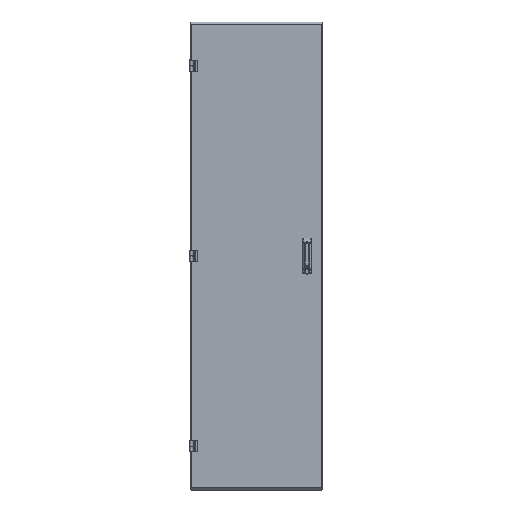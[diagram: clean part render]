
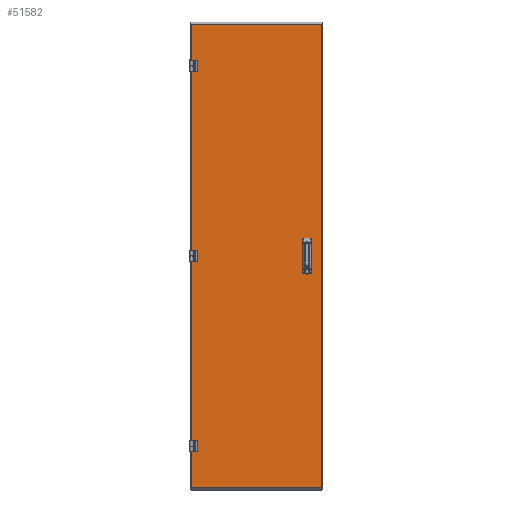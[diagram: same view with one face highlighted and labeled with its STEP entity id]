
A CAD part, front view. The second image highlights one B-rep face of the part: STEP entity #51582.
In plain terms, the highlighted planar face has unit normal (0, -1, 0).
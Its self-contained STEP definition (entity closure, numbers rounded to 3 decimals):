
#2938=CIRCLE('',#54766,5.156);
#2939=CIRCLE('',#54767,5.156);
#2940=CIRCLE('',#54768,5.156);
#2941=CIRCLE('',#54769,5.156);
#2942=CIRCLE('',#54770,5.156);
#2943=CIRCLE('',#54771,5.156);
#4999=ORIENTED_EDGE('',*,*,#20739,.T.);
#5000=ORIENTED_EDGE('',*,*,#20740,.T.);
#5001=ORIENTED_EDGE('',*,*,#20741,.F.);
#5002=ORIENTED_EDGE('',*,*,#20742,.F.);
#5003=ORIENTED_EDGE('',*,*,#20743,.F.);
#5004=ORIENTED_EDGE('',*,*,#20744,.F.);
#5005=ORIENTED_EDGE('',*,*,#20745,.T.);
#5006=ORIENTED_EDGE('',*,*,#20746,.T.);
#5007=ORIENTED_EDGE('',*,*,#20747,.T.);
#5008=ORIENTED_EDGE('',*,*,#20748,.T.);
#5009=ORIENTED_EDGE('',*,*,#20749,.T.);
#5010=ORIENTED_EDGE('',*,*,#20750,.T.);
#5011=ORIENTED_EDGE('',*,*,#20751,.T.);
#5012=ORIENTED_EDGE('',*,*,#20752,.T.);
#20739=EDGE_CURVE('',#28610,#28610,#2938,.T.);
#20740=EDGE_CURVE('',#28611,#28611,#2939,.T.);
#20741=EDGE_CURVE('',#28612,#28613,#33699,.T.);
#20742=EDGE_CURVE('',#28614,#28612,#33700,.T.);
#20743=EDGE_CURVE('',#28615,#28614,#33701,.T.);
#20744=EDGE_CURVE('',#28613,#28615,#33702,.T.);
#20745=EDGE_CURVE('',#28616,#28616,#2940,.F.);
#20746=EDGE_CURVE('',#28617,#28617,#2941,.F.);
#20747=EDGE_CURVE('',#28618,#28618,#2942,.F.);
#20748=EDGE_CURVE('',#28619,#28619,#2943,.F.);
#20749=EDGE_CURVE('',#28620,#28621,#33703,.T.);
#20750=EDGE_CURVE('',#28621,#28622,#33704,.T.);
#20751=EDGE_CURVE('',#28622,#28623,#33705,.T.);
#20752=EDGE_CURVE('',#28623,#28620,#33706,.T.);
#28610=VERTEX_POINT('',#73138);
#28611=VERTEX_POINT('',#73140);
#28612=VERTEX_POINT('',#73142);
#28613=VERTEX_POINT('',#73143);
#28614=VERTEX_POINT('',#73145);
#28615=VERTEX_POINT('',#73147);
#28616=VERTEX_POINT('',#73150);
#28617=VERTEX_POINT('',#73152);
#28618=VERTEX_POINT('',#73154);
#28619=VERTEX_POINT('',#73156);
#28620=VERTEX_POINT('',#73158);
#28621=VERTEX_POINT('',#73159);
#28622=VERTEX_POINT('',#73161);
#28623=VERTEX_POINT('',#73163);
#33699=LINE('',#73141,#38370);
#33700=LINE('',#73144,#38371);
#33701=LINE('',#73146,#38372);
#33702=LINE('',#73148,#38373);
#33703=LINE('',#73157,#38374);
#33704=LINE('',#73160,#38375);
#33705=LINE('',#73162,#38376);
#33706=LINE('',#73164,#38377);
#38370=VECTOR('',#59456,1000.);
#38371=VECTOR('',#59457,1000.);
#38372=VECTOR('',#59458,1000.);
#38373=VECTOR('',#59459,1000.);
#38374=VECTOR('',#59468,1000.);
#38375=VECTOR('',#59469,1000.);
#38376=VECTOR('',#59470,1000.);
#38377=VECTOR('',#59471,1000.);
#42930=EDGE_LOOP('',(#4999));
#42931=EDGE_LOOP('',(#5000));
#42932=EDGE_LOOP('',(#5001,#5002,#5003,#5004));
#42933=EDGE_LOOP('',(#5005));
#42934=EDGE_LOOP('',(#5006));
#42935=EDGE_LOOP('',(#5007));
#42936=EDGE_LOOP('',(#5008));
#42937=EDGE_LOOP('',(#5009,#5010,#5011,#5012));
#46353=FACE_BOUND('',#42930,.T.);
#46354=FACE_BOUND('',#42931,.T.);
#46355=FACE_BOUND('',#42932,.T.);
#46356=FACE_BOUND('',#42933,.T.);
#46357=FACE_BOUND('',#42934,.T.);
#46358=FACE_BOUND('',#42935,.T.);
#46359=FACE_BOUND('',#42936,.T.);
#46360=FACE_BOUND('',#42937,.T.);
#49777=PLANE('',#54765);
#51582=ADVANCED_FACE('',(#46353,#46354,#46355,#46356,#46357,#46358,#46359,
#46360),#49777,.T.);
#54765=AXIS2_PLACEMENT_3D('',#73136,#59450,#59451);
#54766=AXIS2_PLACEMENT_3D('',#73137,#59452,#59453);
#54767=AXIS2_PLACEMENT_3D('',#73139,#59454,#59455);
#54768=AXIS2_PLACEMENT_3D('',#73149,#59460,#59461);
#54769=AXIS2_PLACEMENT_3D('',#73151,#59462,#59463);
#54770=AXIS2_PLACEMENT_3D('',#73153,#59464,#59465);
#54771=AXIS2_PLACEMENT_3D('',#73155,#59466,#59467);
#59450=DIRECTION('',(0.,-1.,0.));
#59451=DIRECTION('',(0.,0.,-1.));
#59452=DIRECTION('',(0.,1.,0.));
#59453=DIRECTION('',(1.,0.,0.));
#59454=DIRECTION('',(0.,1.,0.));
#59455=DIRECTION('',(1.,0.,0.));
#59456=DIRECTION('',(0.,0.,-1.));
#59457=DIRECTION('',(-1.,0.,0.));
#59458=DIRECTION('',(0.,0.,1.));
#59459=DIRECTION('',(1.,0.,0.));
#59460=DIRECTION('',(0.,-1.,0.));
#59461=DIRECTION('',(0.,0.,-1.));
#59462=DIRECTION('',(0.,-1.,0.));
#59463=DIRECTION('',(0.,0.,-1.));
#59464=DIRECTION('',(0.,-1.,0.));
#59465=DIRECTION('',(0.,0.,-1.));
#59466=DIRECTION('',(0.,-1.,0.));
#59467=DIRECTION('',(0.,0.,-1.));
#59468=DIRECTION('',(0.,0.,-1.));
#59469=DIRECTION('',(1.,0.,0.));
#59470=DIRECTION('',(0.,0.,1.));
#59471=DIRECTION('',(-1.,0.,0.));
#73136=CARTESIAN_POINT('',(-289.916,0.,-1030.154));
#73137=CARTESIAN_POINT('',(-277.368,0.,12.497));
#73138=CARTESIAN_POINT('',(-272.212,0.,12.497));
#73139=CARTESIAN_POINT('',(-277.368,0.,-12.497));
#73140=CARTESIAN_POINT('',(-272.212,0.,-12.497));
#73141=CARTESIAN_POINT('',(212.595,0.,75.));
#73142=CARTESIAN_POINT('',(212.595,0.,75.));
#73143=CARTESIAN_POINT('',(212.595,0.,-75.));
#73144=CARTESIAN_POINT('',(237.595,0.,75.));
#73145=CARTESIAN_POINT('',(237.595,0.,75.));
#73146=CARTESIAN_POINT('',(237.595,0.,-75.));
#73147=CARTESIAN_POINT('',(237.595,0.,-75.));
#73148=CARTESIAN_POINT('',(212.595,0.,-75.));
#73149=CARTESIAN_POINT('',(-277.368,0.,-860.438));
#73150=CARTESIAN_POINT('',(-277.368,0.,-865.594));
#73151=CARTESIAN_POINT('',(-277.368,0.,-835.444));
#73152=CARTESIAN_POINT('',(-277.368,0.,-840.6));
#73153=CARTESIAN_POINT('',(-277.368,0.,860.438));
#73154=CARTESIAN_POINT('',(-277.368,0.,855.281));
#73155=CARTESIAN_POINT('',(-277.368,0.,835.444));
#73156=CARTESIAN_POINT('',(-277.368,0.,830.288));
#73157=CARTESIAN_POINT('',(-289.916,0.,1030.154));
#73158=CARTESIAN_POINT('',(-289.916,0.,1029.249));
#73159=CARTESIAN_POINT('',(-289.916,0.,-1029.249));
#73160=CARTESIAN_POINT('',(-289.916,0.,-1029.249));
#73161=CARTESIAN_POINT('',(289.916,0.,-1029.249));
#73162=CARTESIAN_POINT('',(289.916,0.,-1030.154));
#73163=CARTESIAN_POINT('',(289.916,0.,1029.249));
#73164=CARTESIAN_POINT('',(289.916,0.,1029.249));
